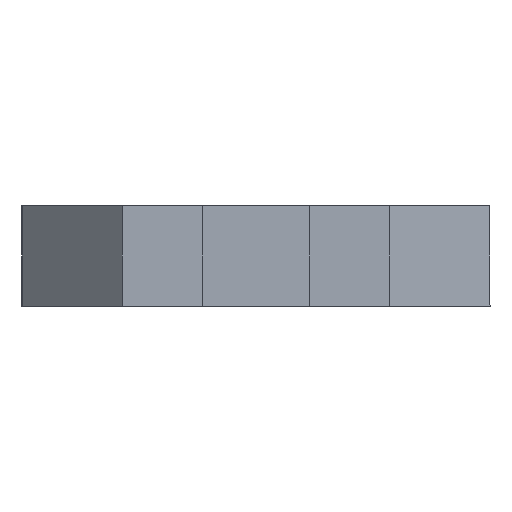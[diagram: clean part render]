
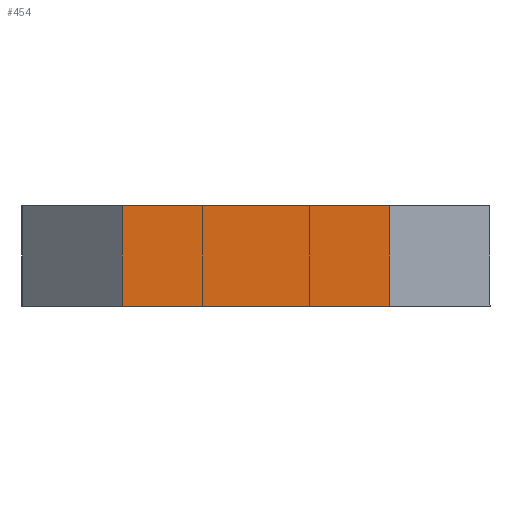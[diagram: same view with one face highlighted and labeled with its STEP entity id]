
A CAD part, front view. The second image highlights one B-rep face of the part: STEP entity #454.
In plain terms, the highlighted planar face has unit normal (0, -1, 0).
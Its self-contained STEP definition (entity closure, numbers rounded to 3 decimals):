
#5 = DIRECTION ( 'NONE',  ( 1., 0., 0. ) ) ;
#40 = VERTEX_POINT ( 'NONE', #560 ) ;
#47 = CARTESIAN_POINT ( 'NONE',  ( -4., -503.75, -3. ) ) ;
#60 = LINE ( 'NONE', #400, #622 ) ;
#69 = VECTOR ( 'NONE', #78, 1000. ) ;
#70 = ORIENTED_EDGE ( 'NONE', *, *, #472, .T. ) ;
#74 = CARTESIAN_POINT ( 'NONE',  ( -7., -503.75, 0. ) ) ;
#78 = DIRECTION ( 'NONE',  ( 0., 0., -1. ) ) ;
#113 = VECTOR ( 'NONE', #5, 1000. ) ;
#131 = DIRECTION ( 'NONE',  ( 1., 0., 0. ) ) ;
#133 = CARTESIAN_POINT ( 'NONE',  ( -7., -503.75, -3. ) ) ;
#192 = VERTEX_POINT ( 'NONE', #312 ) ;
#232 = VERTEX_POINT ( 'NONE', #479 ) ;
#268 = ORIENTED_EDGE ( 'NONE', *, *, #422, .T. ) ;
#271 = DIRECTION ( 'NONE',  ( 0., -1., 0. ) ) ;
#277 = VERTEX_POINT ( 'NONE', #509 ) ;
#303 = AXIS2_PLACEMENT_3D ( 'NONE', #330, #271, #362 ) ;
#312 = CARTESIAN_POINT ( 'NONE',  ( -4., -503.75, -3. ) ) ;
#315 = DIRECTION ( 'NONE',  ( 0., 0., 1. ) ) ;
#326 = ORIENTED_EDGE ( 'NONE', *, *, #407, .F. ) ;
#329 = EDGE_LOOP ( 'NONE', ( #326, #651, #268, #70 ) ) ;
#330 = CARTESIAN_POINT ( 'NONE',  ( -7., -503.75, -3. ) ) ;
#353 = LINE ( 'NONE', #47, #69 ) ;
#362 = DIRECTION ( 'NONE',  ( 0., 0., -1. ) ) ;
#400 = CARTESIAN_POINT ( 'NONE',  ( 4., -503.75, -3. ) ) ;
#407 = EDGE_CURVE ( 'NONE', #40, #232, #613, .T. ) ;
#422 = EDGE_CURVE ( 'NONE', #192, #277, #556, .T. ) ;
#454 = ADVANCED_FACE ( 'NONE', ( #514 ), #456, .T. ) ;
#456 = PLANE ( 'NONE',  #303 ) ;
#472 = EDGE_CURVE ( 'NONE', #277, #232, #60, .T. ) ;
#479 = CARTESIAN_POINT ( 'NONE',  ( 4., -503.75, 0. ) ) ;
#488 = EDGE_CURVE ( 'NONE', #40, #192, #353, .T. ) ;
#509 = CARTESIAN_POINT ( 'NONE',  ( 4., -503.75, -3. ) ) ;
#514 = FACE_OUTER_BOUND ( 'NONE', #329, .T. ) ;
#556 = LINE ( 'NONE', #133, #614 ) ;
#560 = CARTESIAN_POINT ( 'NONE',  ( -4., -503.75, 0. ) ) ;
#613 = LINE ( 'NONE', #74, #113 ) ;
#614 = VECTOR ( 'NONE', #131, 1000. ) ;
#622 = VECTOR ( 'NONE', #315, 1000. ) ;
#651 = ORIENTED_EDGE ( 'NONE', *, *, #488, .T. ) ;
